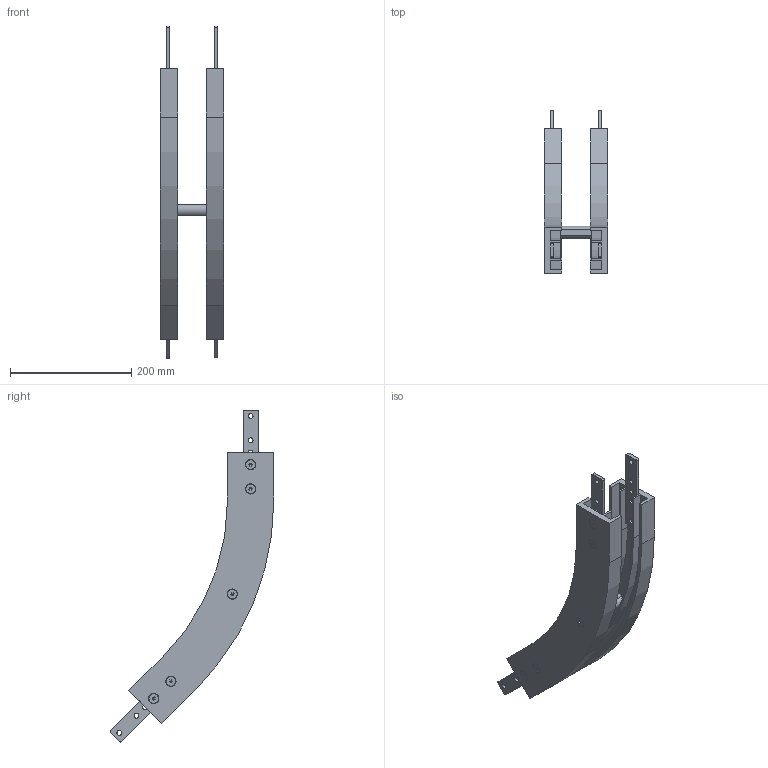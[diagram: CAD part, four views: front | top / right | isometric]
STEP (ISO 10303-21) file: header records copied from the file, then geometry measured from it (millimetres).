
FILE_DESCRIPTION (( 'STEP AP203' ), '1' );
FILE_NAME ('FCVB-45 R400.STEP', '2007-12-12T08:53:41', ( ' ' ), ( ' ' ), 'SwSTEP 2.0', 'SolidWorks 2008', '' );
FILE_SCHEMA (( 'CONFIG_CONTROL_DESIGN' ));
Length unit declared in the file: millimetre
Products named in the file (5): courbe verticale FC105-R400_45R400; FACS-25.éclisse larg 25mm; FCVB-45 R400; FGDT 3X20 lg85_Défaut; Vis F HC, M 8x12_Défaut
Assembly tree (16 placements, depth 2):
  FCVB-45 R400
    Vis F HC, M 8x12_Défaut  x10
    courbe verticale FC105-R400_45R400
    FACS-25.éclisse larg 25mm  x4
    FGDT 3X20 lg85_Défaut
Bounding box: 105 x 269.38 x 546.91 mm (x, y, z)
Volume: 1131140.2 mm3; surface area: 355504.6 mm2
Topology: 17 solids, 17 shells, 556 faces, 1436 edges, 904 vertices
Faces by surface type: plane 240, cylinder 206, cone 90, bspline 20
Entity records: 7939 total; most frequent: CARTESIAN_POINT 2678, DIRECTION 941, ORIENTED_EDGE 906, EDGE_CURVE 453, AXIS2_PLACEMENT_3D 330, VERTEX_POINT 292, LINE 281, VECTOR 281
